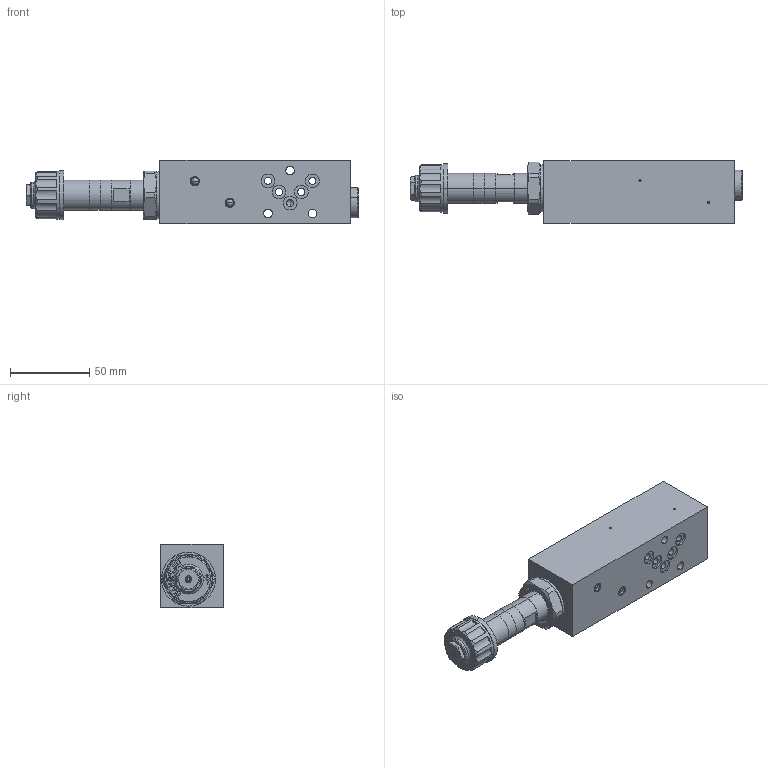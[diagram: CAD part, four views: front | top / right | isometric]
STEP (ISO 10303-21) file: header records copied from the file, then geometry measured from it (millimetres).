
FILE_DESCRIPTION (( 'STEP AP214' ), '1' );
FILE_NAME ('M.PSA04-P.STEP', '2017-03-31T06:05:07', ( '' ), ( '' ), 'SwSTEP 2.0', 'SolidWorks 2016', '' );
FILE_SCHEMA (( 'AUTOMOTIVE_DESIGN' ));
Length unit declared in the file: millimetre
Products named in the file (1): M.PSA04-P
Bounding box: 209 x 39.5 x 40 mm (x, y, z)
Volume: 217692.2 mm3; surface area: 39286.9 mm2
Topology: 6 solids, 11 shells, 473 faces, 1127 edges, 702 vertices
Faces by surface type: plane 179, cylinder 144, cone 97, bspline 22, sphere 16, torus 15
Entity records: 19914 total; most frequent: CARTESIAN_POINT 4070, DIRECTION 2298, ORIENTED_EDGE 2210, EDGE_CURVE 1105, AXIS2_PLACEMENT_3D 863, VERTEX_POINT 702, LINE 572, VECTOR 572
